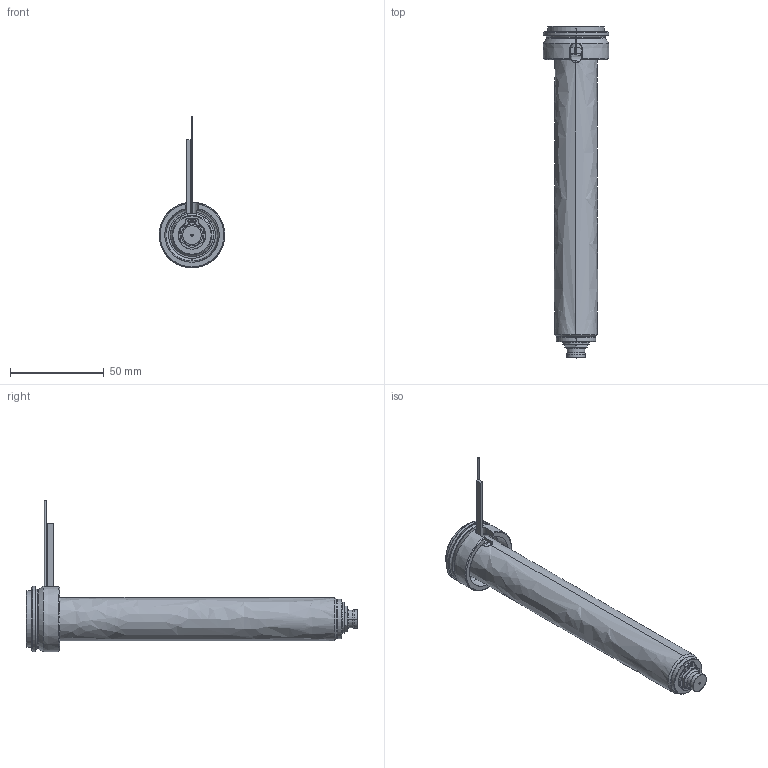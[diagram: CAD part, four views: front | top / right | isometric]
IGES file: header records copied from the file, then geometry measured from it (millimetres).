
Start section: SolidWorks IGES file using analytic representation for surfaces
Global section: file name: C:\Documents and Settings\ws-20\Desktop\TEM\UGEP3154-M-A-1 [Øf-0.30 P-0 ØC-7.0].IGS; native system: SolidWorks 2012; preprocessor: SolidWorks 2012; author: ws-20; date: 120404.082501; units: millimetre
Bounding box: 35 x 177 x 80.9 mm (x, y, z)
Surface area: 25437.5 mm2 (no closed solid volume)
Topology: 0 solids, 0 shells, 117 faces, 1584 edges, 1584 vertices
Faces by surface type: revolution 71, bspline 46
